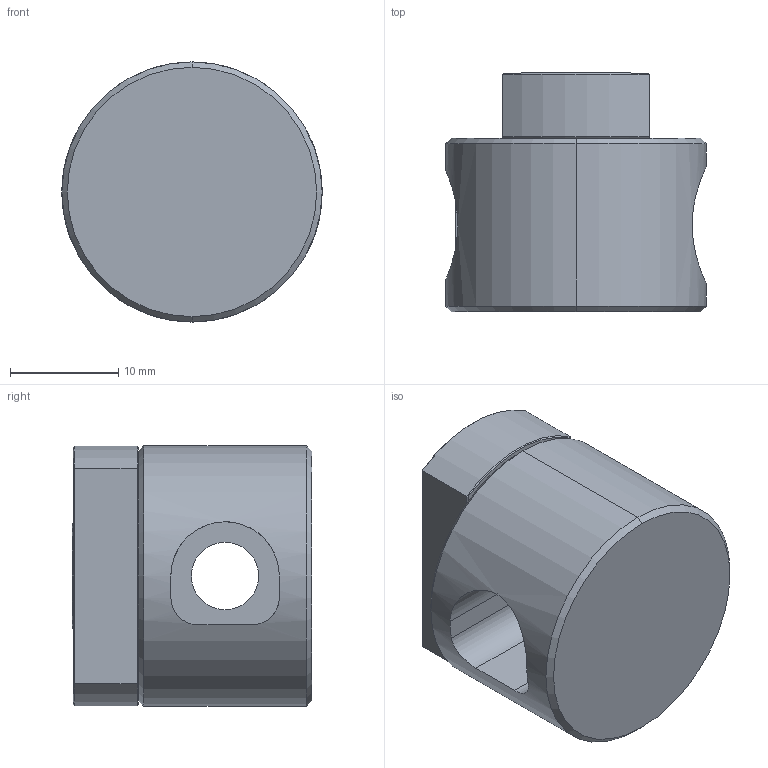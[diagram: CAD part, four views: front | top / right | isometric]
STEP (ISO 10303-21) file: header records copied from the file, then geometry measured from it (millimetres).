
FILE_DESCRIPTION (( 'STEP AP214' ), '1' );
FILE_NAME ('DF101624.STEP', '2013-06-18T10:37:01', ( '' ), ( '' ), 'SwSTEP 2.0', 'SolidWorks 2011', '' );
FILE_SCHEMA (( 'AUTOMOTIVE_DESIGN' ));
Length unit declared in the file: millimetre
Products named in the file (7): GD101312; 9DF101624; 9GD101312; 3Iman8x3; 8DF101624; DF101624; 3Iman4x2
Assembly tree (7 placements, depth 3):
  DF101624
    9DF101624
      3Iman8x3
      8DF101624
    GD101312
      3Iman4x2  x2
      9GD101312
Bounding box: 24 x 22.1 x 24 mm (x, y, z)
Volume: 7274.2 mm3; surface area: 4322.6 mm2
Topology: 5 solids, 5 shells, 79 faces, 159 edges, 96 vertices
Faces by surface type: cylinder 28, plane 25, torus 14, cone 12
Entity records: 2281 total; most frequent: CARTESIAN_POINT 488, DIRECTION 377, ORIENTED_EDGE 290, AXIS2_PLACEMENT_3D 163, EDGE_CURVE 145, VERTEX_POINT 88, EDGE_LOOP 81, CIRCLE 80
